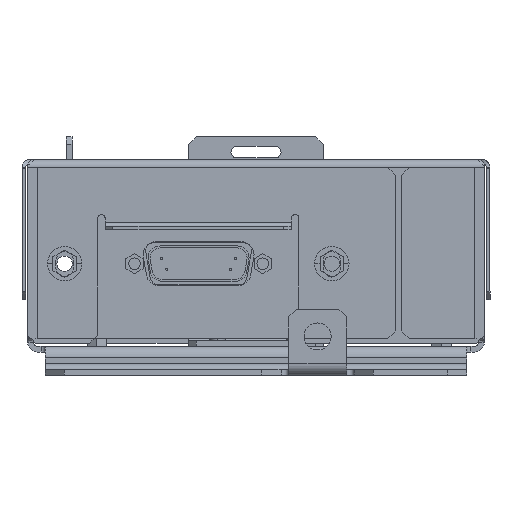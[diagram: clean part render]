
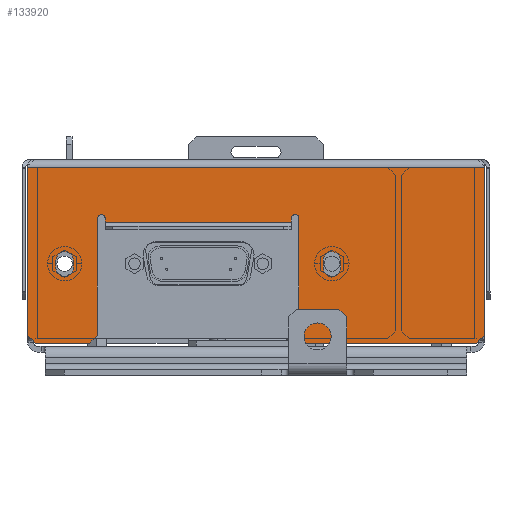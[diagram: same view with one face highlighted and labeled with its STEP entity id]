
A CAD part, left-side view. The second image highlights one B-rep face of the part: STEP entity #133920.
In plain terms, the highlighted planar face has unit normal (-1, 0, 0).
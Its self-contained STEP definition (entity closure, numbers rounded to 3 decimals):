
#38620=CARTESIAN_POINT('',(-114.25,155.427,-27.945));
#38630=VERTEX_POINT('',#38620);
#38790=CARTESIAN_POINT('',(-114.25,155.427,-25.945));
#38800=VERTEX_POINT('',#38790);
#38830=CARTESIAN_POINT('',(-114.25,155.427,-26.945));
#38840=DIRECTION('',(-1.,0.,0.));
#38850=DIRECTION('',(0.,0.,-1.));
#38860=AXIS2_PLACEMENT_3D('',#38830,#38840,#38850);
#38870=CIRCLE('',#38860,1.);
#38880=EDGE_CURVE('',#38630,#38800,#38870,.T.);
#40050=CARTESIAN_POINT('',(-114.25,141.19,-27.945));
#40060=DIRECTION('',(0.,-1.,0.));
#40070=VECTOR('',#40060,1.);
#40080=LINE('',#40050,#40070);
#40090=CARTESIAN_POINT('',(-114.25,156.427,-27.945));
#40100=VERTEX_POINT('',#40090);
#40110=EDGE_CURVE('',#40100,#38630,#40080,.T.);
#48380=CARTESIAN_POINT('',(-114.25,187.79,-80.245));
#48390=VERTEX_POINT('',#48380);
#48420=CARTESIAN_POINT('',(-114.25,187.79,-32.286));
#48430=DIRECTION('',(0.,0.,-1.));
#48440=VECTOR('',#48430,1.);
#48450=LINE('',#48420,#48440);
#48460=CARTESIAN_POINT('',(-114.25,187.79,-124.345));
#48470=VERTEX_POINT('',#48460);
#48480=EDGE_CURVE('',#48390,#48470,#48450,.T.);
#48880=CARTESIAN_POINT('',(-114.25,142.19,-7.845));
#48890=VERTEX_POINT('',#48880);
#48920=CARTESIAN_POINT('',(-114.25,141.19,-7.845));
#48930=DIRECTION('',(0.,-1.,0.));
#48940=VECTOR('',#48930,1.);
#48950=LINE('',#48920,#48940);
#48960=CARTESIAN_POINT('',(-114.25,185.79,-7.845));
#48970=VERTEX_POINT('',#48960);
#48980=EDGE_CURVE('',#48970,#48890,#48950,.T.);
#49360=CARTESIAN_POINT('',(-114.25,185.79,-126.345));
#49370=VERTEX_POINT('',#49360);
#49400=CARTESIAN_POINT('',(-114.25,141.19,-126.345));
#49410=DIRECTION('',(0.,-1.,0.));
#49420=VECTOR('',#49410,1.);
#49430=LINE('',#49400,#49420);
#49440=CARTESIAN_POINT('',(-114.25,142.19,-126.345));
#49450=VERTEX_POINT('',#49440);
#49460=EDGE_CURVE('',#49370,#49450,#49430,.T.);
#99730=CARTESIAN_POINT('',(-114.25,187.79,-32.286));
#99740=DIRECTION('',(0.,0.,-1.));
#99750=VECTOR('',#99740,1.);
#99760=LINE('',#99730,#99750);
#99770=CARTESIAN_POINT('',(-114.25,187.79,-9.845));
#99780=VERTEX_POINT('',#99770);
#99790=CARTESIAN_POINT('',(-114.25,187.79,-23.945));
#99800=VERTEX_POINT('',#99790);
#99810=EDGE_CURVE('',#99780,#99800,#99760,.T.);
#100130=CARTESIAN_POINT('',(-114.25,141.19,-25.945));
#100140=DIRECTION('',(0.,1.,0.));
#100150=VECTOR('',#100140,1.);
#100160=LINE('',#100130,#100150);
#100170=CARTESIAN_POINT('',(-114.25,185.79,-25.945));
#100180=VERTEX_POINT('',#100170);
#100190=EDGE_CURVE('',#38800,#100180,#100160,.T.);
#100510=CARTESIAN_POINT('',(-114.25,279.848,-32.286))
;
#100520=DIRECTION('',(0.,0.707,
0.707));
#100530=VECTOR('',#100520,1.);
#100540=LINE('',#100510,#100530);
#100550=EDGE_CURVE('',#49370,#48470,#100540,.T.);
#120380=CARTESIAN_POINT('',(-114.25,210.231,-32.286))
;
#120390=DIRECTION('',(0.,-0.707,
0.707));
#120400=VECTOR('',#120390,1.);
#120410=LINE('',#120380,#120400);
#120420=EDGE_CURVE('',#99780,#48970,#120410,.T.);
#122140=CARTESIAN_POINT('',(-114.25,179.448,-32.286))
;
#122150=DIRECTION('',(0.,0.707,
0.707));
#122160=VECTOR('',#122150,1.);
#122170=LINE('',#122140,#122160);
#122180=EDGE_CURVE('',#100180,#99800,#122170,.T.);
#128490=CARTESIAN_POINT('',(-114.25,168.334,-84.535))
;
#128500=VERTEX_POINT('',#128490);
#128530=CARTESIAN_POINT('',(-114.25,141.19,-84.535))
;
#128540=DIRECTION('',(0.,1.,0.));
#128550=VECTOR('',#128540,1.);
#128560=LINE('',#128530,#128550);
#128570=CARTESIAN_POINT('',(-114.25,166.334,-84.535))
;
#128580=VERTEX_POINT('',#128570);
#128590=EDGE_CURVE('',#128580,#128500,#128560,.T.);
#128800=CARTESIAN_POINT('',(-114.25,168.334,-89.035))
;
#128810=VERTEX_POINT('',#128800);
#128840=CARTESIAN_POINT('',(-114.25,168.334,-86.785))
;
#128850=DIRECTION('',(-1.,0.,0.));
#128860=DIRECTION('',(0.,0.,-1.));
#128870=AXIS2_PLACEMENT_3D('',#128840,#128850,#128860);
#128880=CIRCLE('',#128870,2.25);
#128890=EDGE_CURVE('',#128500,#128810,#128880,.T.);
#129050=CARTESIAN_POINT('',(-114.25,166.334,-89.035))
;
#129060=VERTEX_POINT('',#129050);
#129090=CARTESIAN_POINT('',(-114.25,141.19,-89.035))
;
#129100=DIRECTION('',(0.,-1.,0.));
#129110=VECTOR('',#129100,1.);
#129120=LINE('',#129090,#129110);
#129130=EDGE_CURVE('',#128810,#129060,#129120,.T.);
#129260=CARTESIAN_POINT('',(-114.25,166.334,-86.785))
;
#129270=DIRECTION('',(-1.,0.,0.));
#129280=DIRECTION('',(0.,0.,-1.));
#129290=AXIS2_PLACEMENT_3D('',#129260,#129270,#129280);
#129300=CIRCLE('',#129290,2.25);
#129310=EDGE_CURVE('',#129060,#128580,#129300,.T.);
#129470=CARTESIAN_POINT('',(-114.25,155.427,-78.245))
;
#129480=VERTEX_POINT('',#129470);
#129510=CARTESIAN_POINT('',(-114.25,141.19,-78.245))
;
#129520=DIRECTION('',(0.,-1.,0.));
#129530=VECTOR('',#129520,1.);
#129540=LINE('',#129510,#129530);
#129550=CARTESIAN_POINT('',(-114.25,185.79,-78.245))
;
#129560=VERTEX_POINT('',#129550);
#129570=EDGE_CURVE('',#129560,#129480,#129540,.T.);
#130270=CARTESIAN_POINT('',(-114.25,155.427,-76.245))
;
#130280=VERTEX_POINT('',#130270);
#130310=CARTESIAN_POINT('',(-114.25,155.427,-77.245))
;
#130320=DIRECTION('',(-1.,0.,0.));
#130330=DIRECTION('',(0.,0.,-1.));
#130340=AXIS2_PLACEMENT_3D('',#130310,#130320,#130330);
#130350=CIRCLE('',#130340,1.);
#130360=EDGE_CURVE('',#129480,#130280,#130350,.T.);
#130510=CARTESIAN_POINT('',(-114.25,156.427,-76.245))
;
#130520=VERTEX_POINT('',#130510);
#130570=CARTESIAN_POINT('',(-114.25,141.19,-76.245))
;
#130580=DIRECTION('',(0.,1.,0.));
#130590=VECTOR('',#130580,1.);
#130600=LINE('',#130570,#130590);
#130610=EDGE_CURVE('',#130280,#130520,#130600,.T.);
#130820=CARTESIAN_POINT('',(-114.25,139.831,-32.286))
;
#130830=DIRECTION('',(0.,-0.707,
0.707));
#130840=VECTOR('',#130830,1.);
#130850=LINE('',#130820,#130840);
#130860=EDGE_CURVE('',#48390,#129560,#130850,.T.);
#132380=CARTESIAN_POINT('',(-114.25,166.334,-15.155))
;
#132390=VERTEX_POINT('',#132380);
#132420=CARTESIAN_POINT('',(-114.25,166.334,-17.405))
;
#132430=DIRECTION('',(-1.,0.,0.));
#132440=DIRECTION('',(0.,0.,-1.));
#132450=AXIS2_PLACEMENT_3D('',#132420,#132430,#132440);
#132460=CIRCLE('',#132450,2.25);
#132470=CARTESIAN_POINT('',(-114.25,166.334,-19.655))
;
#132480=VERTEX_POINT('',#132470);
#132490=EDGE_CURVE('',#132480,#132390,#132460,.T.);
#132700=CARTESIAN_POINT('',(-114.25,168.334,-15.155))
;
#132710=VERTEX_POINT('',#132700);
#132740=CARTESIAN_POINT('',(-114.25,141.19,-15.155));
#132750=DIRECTION('',(0.,1.,0.));
#132760=VECTOR('',#132750,1.);
#132770=LINE('',#132740,#132760);
#132780=EDGE_CURVE('',#132390,#132710,#132770,.T.);
#132940=CARTESIAN_POINT('',(-114.25,168.334,-19.655))
;
#132950=VERTEX_POINT('',#132940);
#132980=CARTESIAN_POINT('',(-114.25,168.334,-17.405))
;
#132990=DIRECTION('',(-1.,0.,0.));
#133000=DIRECTION('',(0.,0.,-1.));
#133010=AXIS2_PLACEMENT_3D('',#132980,#132990,#133000);
#133020=CIRCLE('',#133010,2.25);
#133030=EDGE_CURVE('',#132710,#132950,#133020,.T.);
#133160=CARTESIAN_POINT('',(-114.25,141.19,-19.655));
#133170=DIRECTION('',(0.,-1.,0.));
#133180=VECTOR('',#133170,1.);
#133190=LINE('',#133160,#133180);
#133200=EDGE_CURVE('',#132950,#132480,#133190,.T.);
#133470=CARTESIAN_POINT('',(-114.25,27.306,-32.286))
;
#133480=DIRECTION('',(1.,0.,0.));
#133490=DIRECTION('',(0.,1.,0.));
#133500=AXIS2_PLACEMENT_3D('',#133470,#133480,#133490);
#133510=PLANE('',#133500);
#133520=ORIENTED_EDGE('',*,*,#132490,.F.);
#133530=ORIENTED_EDGE('',*,*,#132780,.F.);
#133540=ORIENTED_EDGE('',*,*,#133030,.F.);
#133550=ORIENTED_EDGE('',*,*,#133200,.F.);
#133560=EDGE_LOOP('',(#133550,#133540,#133530,#133520));
#133570=FACE_BOUND('',#133560,.T.);
#133580=ORIENTED_EDGE('',*,*,#128590,.F.);
#133590=ORIENTED_EDGE('',*,*,#128890,.F.);
#133600=ORIENTED_EDGE('',*,*,#129130,.F.);
#133610=ORIENTED_EDGE('',*,*,#129310,.F.);
#133620=EDGE_LOOP('',(#133610,#133600,#133590,#133580));
#133630=FACE_BOUND('',#133620,.T.);
#133640=ORIENTED_EDGE('',*,*,#40110,.F.);
#133650=ORIENTED_EDGE('',*,*,#38880,.F.);
#133660=ORIENTED_EDGE('',*,*,#100190,.F.);
#133670=ORIENTED_EDGE('',*,*,#122180,.F.);
#133680=ORIENTED_EDGE('',*,*,#99810,.T.);
#133690=ORIENTED_EDGE('',*,*,#120420,.F.);
#133700=ORIENTED_EDGE('',*,*,#48980,.F.);
#133710=CARTESIAN_POINT('',(-114.25,142.19,-8.965));
#133720=DIRECTION('',(0.,0.,1.));
#133730=VECTOR('',#133720,1.);
#133740=LINE('',#133710,#133730);
#133750=EDGE_CURVE('',#49450,#48890,#133740,.T.);
#133760=ORIENTED_EDGE('',*,*,#133750,.T.);
#133770=ORIENTED_EDGE('',*,*,#49460,.T.);
#133780=ORIENTED_EDGE('',*,*,#100550,.F.);
#133790=ORIENTED_EDGE('',*,*,#48480,.T.);
#133800=ORIENTED_EDGE('',*,*,#130860,.F.);
#133810=ORIENTED_EDGE('',*,*,#129570,.F.);
#133820=ORIENTED_EDGE('',*,*,#130360,.F.);
#133830=ORIENTED_EDGE('',*,*,#130610,.F.);
#133840=CARTESIAN_POINT('',(-114.25,156.427,-32.286))
;
#133850=DIRECTION('',(0.,0.,1.));
#133860=VECTOR('',#133850,1.);
#133870=LINE('',#133840,#133860);
#133880=EDGE_CURVE('',#130520,#40100,#133870,.T.);
#133890=ORIENTED_EDGE('',*,*,#133880,.F.);
#133900=EDGE_LOOP('',(#133890,#133830,#133820,#133810,#133800,#133790,
#133780,#133770,#133760,#133700,#133690,#133680,#133670,#133660,#133650,
#133640));
#133910=FACE_OUTER_BOUND('',#133900,.T.);
#133920=ADVANCED_FACE('',(#133570,#133630,#133910),#133510,.F.);
